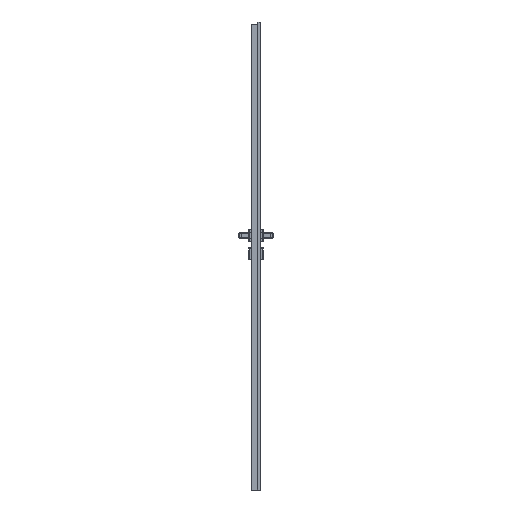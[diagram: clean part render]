
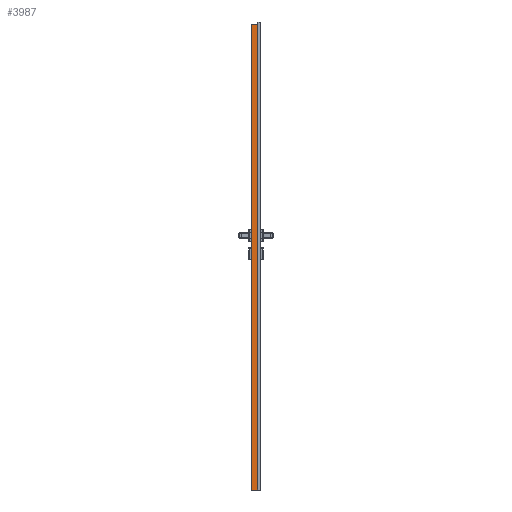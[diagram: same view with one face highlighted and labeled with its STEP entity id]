
A CAD part, left-side view. The second image highlights one B-rep face of the part: STEP entity #3987.
In plain terms, the highlighted planar face has unit normal (-1, 0, 0).
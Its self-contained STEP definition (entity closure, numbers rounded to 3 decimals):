
#2177=CIRCLE('',#39965,1.48);
#3987=ADVANCED_FACE('',(#7181),#5601,.F.);
#5601=PLANE('',#40006);
#7181=FACE_OUTER_BOUND('',#9259,.T.);
#9259=EDGE_LOOP('',(#14264,#14265,#14266,#14267,#14268));
#14264=ORIENTED_EDGE('',*,*,#27428,.T.);
#14265=ORIENTED_EDGE('',*,*,#27481,.F.);
#14266=ORIENTED_EDGE('',*,*,#27482,.T.);
#14267=ORIENTED_EDGE('',*,*,#27479,.F.);
#14268=ORIENTED_EDGE('',*,*,#27434,.T.);
#23114=VERTEX_POINT('',#62038);
#23128=VERTEX_POINT('',#62140);
#23129=VERTEX_POINT('',#62141);
#23148=VERTEX_POINT('',#62249);
#23149=VERTEX_POINT('',#62253);
#27428=EDGE_CURVE('',#23128,#23129,#32259,.T.);
#27434=EDGE_CURVE('',#23114,#23128,#2177,.T.);
#27479=EDGE_CURVE('',#23114,#23148,#32298,.T.);
#27481=EDGE_CURVE('',#23149,#23129,#32299,.T.);
#27482=EDGE_CURVE('',#23149,#23148,#32300,.T.);
#32259=LINE('',#62139,#36049);
#32298=LINE('',#62248,#36088);
#32299=LINE('',#62252,#36089);
#32300=LINE('',#62254,#36090);
#36049=VECTOR('',#45579,1.);
#36088=VECTOR('',#45702,1.);
#36089=VECTOR('',#45707,1.);
#36090=VECTOR('',#45708,1.);
#39965=AXIS2_PLACEMENT_3D('',#62150,#45589,#45590);
#40006=AXIS2_PLACEMENT_3D('',#62255,#45709,#45710);
#45579=DIRECTION('',(0.,1.,0.));
#45589=DIRECTION('',(1.,0.,0.));
#45590=DIRECTION('',(0.,0.,1.));
#45702=DIRECTION('',(0.,0.,-1.));
#45707=DIRECTION('',(0.,0.,1.));
#45708=DIRECTION('',(0.,-1.,0.));
#45709=DIRECTION('',(1.,0.,0.));
#45710=DIRECTION('',(0.,0.,-1.));
#62038=CARTESIAN_POINT('',(-309.,-24.647,2017.079));
#62139=CARTESIAN_POINT('',(-309.,0.,2017.02));
#62140=CARTESIAN_POINT('',(-309.,-24.2,2017.02));
#62141=CARTESIAN_POINT('',(-309.,-1.65,2017.02));
#62150=CARTESIAN_POINT('',(-309.,-24.2,2018.5));
#62248=CARTESIAN_POINT('',(-309.,-24.65,0.));
#62249=CARTESIAN_POINT('',(-309.,-24.65,0.));
#62252=CARTESIAN_POINT('',(-309.,-1.65,0.));
#62253=CARTESIAN_POINT('',(-309.,-1.65,0.));
#62254=CARTESIAN_POINT('',(-309.,-24.65,0.));
#62255=CARTESIAN_POINT('',(-309.,-24.65,0.));
